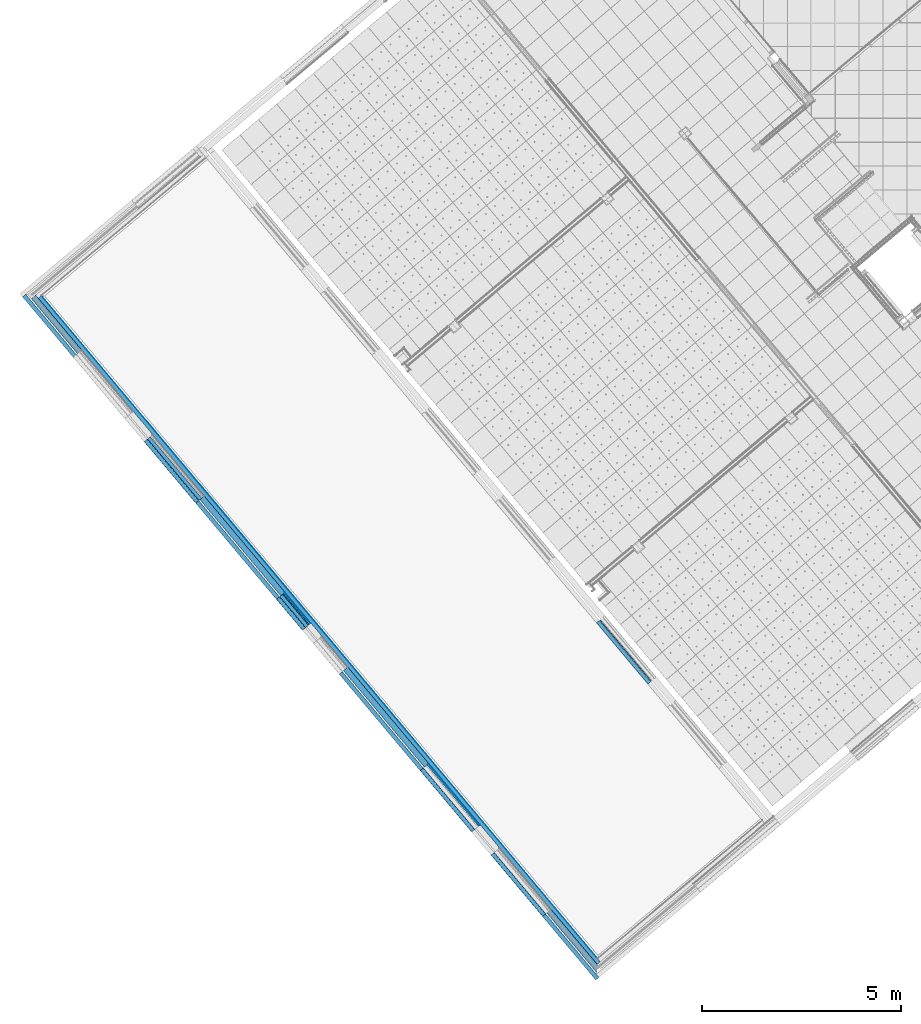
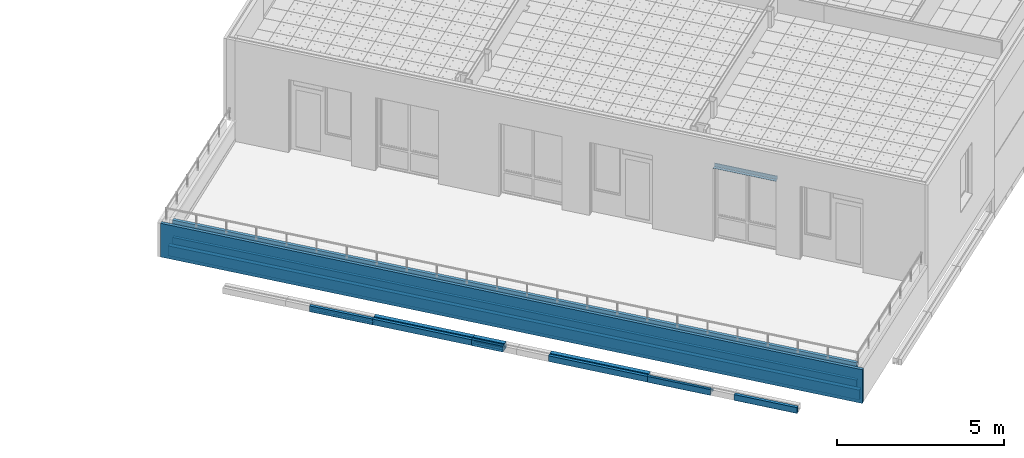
# One storey, part 48 of 321: 25 building element parts, 8 elements without a shape of their own.
"""IFC2X3 building model written with IfcOpenShell, lengths in millimetres."""

from ifc_helpers import new_model, entity, si_unit, converted_unit, derived_unit, money_unit, direction, frame, origin_with_axes, place, context, subcontext, project, spatial, faceted_brep, material, type_object, element, aggregate, save


model = new_model("IFC2X3")

# Units and contexts
model_context = context("Model", 3, precision=0.01, world=origin_with_axes(), true_north=direction((0.0, 1.0)))
plan_context = context("Plan", 3, precision=0.01, world=origin_with_axes(), true_north=direction((0.0, 1.0)))
body_context = subcontext(model_context, "Body", "Model", "MODEL_VIEW")
ifc_project = project(units=[si_unit("LENGTHUNIT", "METRE", prefix="MILLI"), si_unit("AREAUNIT", "SQUARE_METRE"), si_unit("VOLUMEUNIT", "CUBIC_METRE"), converted_unit("PLANEANGLEUNIT", "DEGREE", entity("IfcPlaneAngleMeasure", 0.0174532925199), si_unit("PLANEANGLEUNIT", "RADIAN"), dimensions=[0, 0, 0, 0, 0, 0, 0]), money_unit("EUR"), converted_unit("TIMEUNIT", "Year", entity("IfcTimeMeasure", 31556926.0), si_unit("TIMEUNIT", "SECOND"), dimensions=[0, 0, 1, 0, 0, 0, 0]), si_unit("MASSUNIT", "GRAM", prefix="KILO"), si_unit("THERMODYNAMICTEMPERATUREUNIT", "DEGREE_CELSIUS"), si_unit("LUMINOUSINTENSITYUNIT", "LUMEN"), si_unit("ENERGYUNIT", "JOULE", prefix="MEGA"), derived_unit("THERMALCONDUCTANCEUNIT", [(si_unit("POWERUNIT", "WATT"), 1), (si_unit("LENGTHUNIT", "METRE"), -1), (si_unit("THERMODYNAMICTEMPERATUREUNIT", "KELVIN"), -1)]), derived_unit("SPECIFICHEATCAPACITYUNIT", [(si_unit("ENERGYUNIT", "JOULE"), 1), (si_unit("MASSUNIT", "GRAM", prefix="KILO"), -1), (si_unit("THERMODYNAMICTEMPERATUREUNIT", "KELVIN"), -1)]), derived_unit("MASSDENSITYUNIT", [(si_unit("MASSUNIT", "GRAM", prefix="KILO"), 1), (si_unit("VOLUMEUNIT", "CUBIC_METRE"), -1)])], contexts=[model_context, plan_context])

# Site, building, storey
site_placement = place(None, origin_with_axes())
site = spatial("IfcSite", under=ifc_project, at=site_placement, Name="Fortuinstraat Woensdrecht", CompositionType="ELEMENT")
building_placement = place(site_placement, origin_with_axes())
building = spatial("IfcBuilding", under=site, at=building_placement, Name="IKC Fortuna", CompositionType="ELEMENT")
storey_placement = place(building_placement, frame((0.0, 0.0, 4000.0), z_axis=(0.0, 0.0, 1.0), x_axis=(1.0, 0.0, 0.0)))
storey = spatial("IfcBuildingStorey", under=building, at=storey_placement, Name="01 eerste verdieping", CompositionType="ELEMENT", Elevation=4000.0)

# Covering, building element parts
covering_type_1 = type_object("IfcCoveringType", Name="21 Dakrand terras 386 x 1235", PredefinedType="CLADDING")
covering_1_placement = place(storey_placement, frame((0.0, 0.0, 1300.0), z_axis=(0.0, 0.0, 1.0), x_axis=(0.642787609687, -0.766044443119, 0.0)))
covering_1 = element("IfcCovering", 1, at=covering_1_placement, inside=storey, type_object=covering_type_1, Name="21_Wandafwerking_Dakrand", PredefinedType="CLADDING")
ifc_material_1 = material(Name="Membraan - waterdicht")
building_element_part_1_placement = place(covering_1_placement, origin_with_axes())
building_element_part_1 = element("IfcBuildingElementPart", 2, at=building_element_part_1_placement, material=ifc_material_1, Name="Membraan - waterdicht", context=body_context, shape_type="Brep", body=[
    faceted_brep([(105.999998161, 100.00000295, 399.999998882), (21827.9999978, 100.00000295, 399.999998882), (21827.9999978, 105.999998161, 399.999998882), (105.999998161, 105.999998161, 399.999998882), (21827.9999978, 100.00000295, 60.0), (105.999998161, 100.00000295, 60.0), (21827.9999978, 105.999998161, 60.0), (105.999998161, 105.999998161, 60.0)], [[[0, 1, 2, 3]], [[4, 1, 0, 5]], [[6, 2, 1, 4]], [[3, 2, 6, 7]], [[5, 0, 3, 7]], [[7, 6, 4, 5]]]),
])
ifc_material_2 = material(Name="Steen - Cellenbeton")
building_element_part_2_placement = place(covering_1_placement, origin_with_axes())
building_element_part_2 = element("IfcBuildingElementPart", 3, at=building_element_part_2_placement, material=ifc_material_2, Name="Steen - Cellenbeton", context=body_context, shape_type="Brep", body=[
    faceted_brep([(100.000002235, 0.0, 399.999998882), (21927.999991, 0.0, 400.0000076), (21927.999991, 100.000002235, 400.0000076), (100.000002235, 100.000002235, 399.999998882), (100.000002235, -2.60774297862e-07, 159.999999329), (21928.0000094, -2.60774061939e-07, 159.999993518), (21928.0000094, 100.000002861, 159.999993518), (21928.0000003, 100.000002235, 59.9999995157), (100.000002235, 100.000002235, 60.0), (100.000002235, 0.0, 60.0), (21928.0000003, 0.0, 59.9999995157)], [[[0, 1, 2, 3]], [[4, 5, 1, 0]], [[5, 6, 2, 1]], [[3, 2, 6, 7, 8]], [[9, 4, 0, 3, 8]], [[9, 10, 5, 4]], [[7, 6, 5, 10]], [[8, 7, 10, 9]]]),
])
ifc_material_3 = material(Name="Steen - Baksteen Hoofd")
building_element_part_3_placement = place(covering_1_placement, origin_with_axes())
building_element_part_3 = element("IfcBuildingElementPart", 4, at=building_element_part_3_placement, material=ifc_material_3, Name="Steen - Baksteen Hoofd", context=body_context, shape_type="Brep", body=[
    faceted_brep([(21927.999991, 0.0, 1035.0), (21927.999991, 100.0, 1035.0), (100.0, 100.0, 1035.0), (100.0, 0.0, 1035.0), (21927.999991, 100.0, 399.999998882), (21927.999991, 0.0, 399.999998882), (100.0, 100.0, 400.0), (100.0, 0.0, 400.0)], [[[0, 1, 2, 3]], [[4, 1, 0, 5]], [[1, 4, 6, 2]], [[3, 2, 6, 7]], [[5, 0, 3, 7]], [[4, 5, 7, 6]]]),
])
ifc_material_4 = material(Name="ALG - ISOLATIE")
building_element_part_4_placement = place(covering_1_placement, origin_with_axes())
building_element_part_4 = element("IfcBuildingElementPart", 5, at=building_element_part_4_placement, material=ifc_material_4, Name="ALG - ISOLATIE", context=body_context, shape_type="Brep", body=[
    faceted_brep([(-2.60770989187e-07, -140.0, 159.999999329), (22068.0000042, -140.0, 159.999993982), (22068.0000042, -2.60770509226e-07, 159.999993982), (-2.60770958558e-07, -2.60773332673e-07, 159.999999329), (22068.0000038, -140.0, -200.0), (-2.60771447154e-07, -140.0, 59.9999995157), (-2.60770989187e-07, -140.0, -200.0), (22068.0000039, -2.60770509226e-07, -200.0), (22068.0000042, -2.60772285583e-07, 60.0), (-2.60771177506e-07, -2.60770830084e-07, 59.9999995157), (-2.60771177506e-07, -2.60770830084e-07, -200.0)], [[[0, 1, 2, 3]], [[4, 1, 0, 5, 6]], [[7, 8, 2, 1, 4]], [[3, 2, 8, 9]], [[5, 0, 3, 9]], [[6, 5, 9, 10]], [[10, 7, 4, 6]], [[9, 8, 7, 10]]]),
])
building_element_part_5_placement = place(covering_1_placement, origin_with_axes())
building_element_part_5 = element("IfcBuildingElementPart", 6, at=building_element_part_5_placement, material=ifc_material_3, Name="Steen - Baksteen Hoofd", context=body_context, shape_type="Brep", body=[
    faceted_brep([(-180.0, -180.0, -200.0), (-180.0, -180.0, 1035.0), (22208.0000013, -180.0, 1035.0), (22208.0000013, -180.0, -200.0), (-180.0, -280.0, -200.0), (-180.0, -280.0, 1035.0), (22208.0000013, -280.0, 1035.0), (22208.0000013, -280.0, -200.0)], [[[0, 1, 2, 3]], [[4, 5, 1, 0]], [[2, 1, 5, 6]], [[6, 7, 3, 2]], [[7, 4, 0, 3]], [[6, 5, 4, 7]]]),
])
aggregate(covering_1, [building_element_part_1, building_element_part_2, building_element_part_3, building_element_part_4, building_element_part_5])

covering_type_2 = type_object("IfcCoveringType", Name="41 Latei MW rollaag 280 x 227", PredefinedType="NOTDEFINED")
covering_2_placement = place(storey_placement, frame((12830.7827725, -15508.9328007, 237.5), z_axis=(0.0, 0.0, 1.0), x_axis=(-0.642787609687, 0.766044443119, 0.0)))
covering_2 = element("IfcCovering", 7, at=covering_2_placement, inside=storey, type_object=covering_type_2, Name="41_Afwerking_Latei + rollaag", PredefinedType="NOTDEFINED")
ifc_material_5 = material(Name="Metaal - Staal C")
building_element_part_6_placement = place(covering_2_placement, origin_with_axes())
building_element_part_6 = element("IfcBuildingElementPart", 8, at=building_element_part_6_placement, material=ifc_material_5, Name="Metaal - Staal C", context=body_context, shape_type="Brep", body=[
    faceted_brep([(2010.0, 32.0, 2.5), (0.0, 32.0, 2.5), (0.0, 32.0, 0.0), (2010.0, 32.0, 0.0), (0.0, 36.6213203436, 2.49999999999), (2010.0, 36.6213203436, 2.49999999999), (0.0, 37.1715728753, 1.17157287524), (0.0, 40.0, 0.0), (0.0, 115.609685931, 0.0), (0.0, 136.0, -4.07767729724), (0.0, 135.215535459, -8.0), (0.0, 115.215535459, -4.0), (0.0, 36.0, -4.0), (0.0, 33.1715728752, -2.82842712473), (2010.0, 33.1715728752, -2.82842712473), (2010.0, 36.0, -4.0), (2010.0, 115.215535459, -4.0), (2010.0, 135.215535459, -8.0), (2010.0, 136.0, -4.07767729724), (2010.0, 115.609685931, 0.0), (2010.0, 40.0, 0.0), (2010.0, 37.1715728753, 1.17157287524)], [[[0, 1, 2, 3]], [[4, 1, 0, 5]], [[1, 4, 6, 7, 8, 9, 10, 11, 12, 13, 2]], [[13, 14, 3, 2]], [[5, 0, 3, 14, 15, 16, 17, 18, 19, 20, 21]], [[4, 5, 21, 6]], [[6, 21, 20, 7]], [[7, 20, 19, 8]], [[8, 19, 18, 9]], [[9, 18, 17, 10]], [[10, 17, 16, 11]], [[11, 16, 15, 12]], [[12, 15, 14, 13]]]),
    faceted_brep([(2010.0, 29.9999999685, 112.580611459), (0.0, 29.9999999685, 112.580611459), (0.0, 20.8284271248, 121.828427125), (2010.0, 20.8284271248, 121.828427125), (0.0, 29.9999999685, 107.000000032), (2010.0, 29.9999999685, 107.000000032), (0.0, 18.0000000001, 119.0), (2010.0, 18.0000000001, 119.0)], [[[0, 1, 2, 3]], [[4, 1, 0, 5]], [[1, 4, 6, 2]], [[6, 7, 3, 2]], [[5, 0, 3, 7]], [[4, 5, 7, 6]]]),
])
ifc_material_6 = material(Name="Steen - Baksteen Accent Rollaag")
building_element_part_7_placement = place(covering_2_placement, origin_with_axes())
building_element_part_7 = element("IfcBuildingElementPart", 9, at=building_element_part_7_placement, material=ifc_material_6, Name="Steen - Baksteen Accent Rollaag", context=body_context, shape_type="Brep", body=[
    faceted_brep([(0.0, 51.9999999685, 12.5), (0.0, 43.5147185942, 16.0147186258), (0.0, 39.9999999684, 24.5), (0.0, 40.0, 210.0), (0.0, 140.0, 210.0), (0.0, 140.0, 0.0), (0.0, 115.609685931, 0.0), (0.0, 40.0, 0.0), (0.0, 40.0, 2.49999999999), (0.0, 129.999999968, 2.49999999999), (0.0, 129.999999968, 6.49999999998), (0.0, 128.242640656, 10.7426406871), (0.0, 123.999999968, 12.5), (2010.0, 51.9999999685, 12.5), (2010.0, 43.5147185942, 16.0147186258), (2010.0, 39.9999999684, 24.5), (2010.0, 40.0, 210.0), (2010.0, 140.0, 210.0), (2010.0, 140.0, 0.0), (2010.0, 115.609685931, 0.0), (2010.0, 40.0, 0.0), (2010.0, 40.0, 2.49999999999), (2010.0, 129.999999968, 2.49999999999), (2010.0, 129.999999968, 6.49999999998), (2010.0, 128.242640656, 10.7426406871), (2010.0, 123.999999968, 12.5)], [[[0, 1, 2, 3, 4, 5, 6, 7, 8, 9, 10, 11, 12]], [[1, 0, 13, 14]], [[15, 2, 1, 14]], [[2, 15, 16, 3]], [[3, 16, 17, 4]], [[4, 17, 18, 5]], [[5, 18, 19, 6]], [[6, 19, 20, 7]], [[21, 8, 7, 20]], [[9, 8, 21, 22]], [[10, 9, 22, 23]], [[11, 10, 23, 24]], [[12, 11, 24, 25]], [[0, 12, 25, 13]], [[22, 21, 20, 19, 18, 17, 16, 15, 14, 13, 25, 24, 23]]]),
])
aggregate(covering_2, [building_element_part_6, building_element_part_7])

covering_3_placement = place(storey_placement, frame((11050.2610804, -13386.9896774, 237.5), z_axis=(0.0, 0.0, 1.0), x_axis=(-0.642787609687, 0.766044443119, 0.0)))
covering_3 = element("IfcCovering", 10, at=covering_3_placement, inside=storey, type_object=covering_type_2, Name="41_Afwerking_Latei + rollaag", PredefinedType="NOTDEFINED")
building_element_part_8_placement = place(covering_3_placement, origin_with_axes())
building_element_part_8 = element("IfcBuildingElementPart", 11, at=building_element_part_8_placement, material=ifc_material_5, Name="Metaal - Staal C", context=body_context, shape_type="Brep", body=[
    faceted_brep([(2010.0, 32.0, 2.5), (0.0, 32.0, 2.5), (0.0, 32.0, 0.0), (2010.0, 32.0, 0.0), (0.0, 36.6213203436, 2.49999999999), (2010.0, 36.6213203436, 2.49999999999), (0.0, 37.1715728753, 1.17157287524), (0.0, 40.0, 0.0), (0.0, 115.609685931, 0.0), (0.0, 136.0, -4.07767729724), (0.0, 135.215535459, -8.0), (0.0, 115.215535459, -4.0), (0.0, 36.0, -4.0), (0.0, 33.1715728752, -2.82842712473), (2010.0, 33.1715728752, -2.82842712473), (2010.0, 36.0, -4.0), (2010.0, 115.215535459, -4.0), (2010.0, 135.215535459, -8.0), (2010.0, 136.0, -4.07767729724), (2010.0, 115.609685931, 0.0), (2010.0, 40.0, 0.0), (2010.0, 37.1715728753, 1.17157287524)], [[[0, 1, 2, 3]], [[4, 1, 0, 5]], [[1, 4, 6, 7, 8, 9, 10, 11, 12, 13, 2]], [[13, 14, 3, 2]], [[5, 0, 3, 14, 15, 16, 17, 18, 19, 20, 21]], [[4, 5, 21, 6]], [[6, 21, 20, 7]], [[7, 20, 19, 8]], [[8, 19, 18, 9]], [[9, 18, 17, 10]], [[10, 17, 16, 11]], [[11, 16, 15, 12]], [[12, 15, 14, 13]]]),
    faceted_brep([(2010.0, 29.9999999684, 112.580611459), (0.0, 29.9999999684, 112.580611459), (0.0, 20.8284271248, 121.828427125), (2010.0, 20.8284271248, 121.828427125), (0.0, 29.9999999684, 107.000000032), (2010.0, 29.9999999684, 107.000000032), (0.0, 18.0000000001, 119.0), (2010.0, 18.0000000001, 119.0)], [[[0, 1, 2, 3]], [[4, 1, 0, 5]], [[1, 4, 6, 2]], [[6, 7, 3, 2]], [[5, 0, 3, 7]], [[4, 5, 7, 6]]]),
])
building_element_part_9_placement = place(covering_3_placement, origin_with_axes())
building_element_part_9 = element("IfcBuildingElementPart", 12, at=building_element_part_9_placement, material=ifc_material_6, Name="Steen - Baksteen Accent Rollaag", context=body_context, shape_type="Brep", body=[
    faceted_brep([(0.0, 51.9999999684, 12.5), (0.0, 43.5147185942, 16.0147186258), (0.0, 39.9999999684, 24.5), (0.0, 40.0, 210.0), (0.0, 140.0, 210.0), (0.0, 140.0, 0.0), (0.0, 115.609685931, 0.0), (0.0, 40.0, 0.0), (0.0, 40.0, 2.49999999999), (0.0, 129.999999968, 2.49999999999), (0.0, 129.999999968, 6.49999999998), (0.0, 128.242640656, 10.7426406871), (0.0, 123.999999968, 12.5), (2010.0, 51.9999999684, 12.5), (2010.0, 43.5147185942, 16.0147186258), (2010.0, 39.9999999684, 24.5), (2010.0, 40.0, 210.0), (2010.0, 140.0, 210.0), (2010.0, 140.0, 0.0), (2010.0, 115.609685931, 0.0), (2010.0, 40.0, 0.0), (2010.0, 40.0, 2.49999999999), (2010.0, 129.999999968, 2.49999999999), (2010.0, 129.999999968, 6.49999999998), (2010.0, 128.242640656, 10.7426406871), (2010.0, 123.999999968, 12.5)], [[[0, 1, 2, 3, 4, 5, 6, 7, 8, 9, 10, 11, 12]], [[1, 0, 13, 14]], [[15, 2, 1, 14]], [[2, 15, 16, 3]], [[3, 16, 17, 4]], [[4, 17, 18, 5]], [[5, 18, 19, 6]], [[6, 19, 20, 7]], [[21, 8, 7, 20]], [[9, 8, 21, 22]], [[10, 9, 22, 23]], [[11, 10, 23, 24]], [[12, 11, 24, 25]], [[0, 12, 25, 13]], [[22, 21, 20, 19, 18, 17, 16, 15, 14, 13, 25, 24, 23]]]),
])
ifc_material_7 = material(Name="Hout AFW")
building_element_part_10_placement = place(covering_3_placement, origin_with_axes())
building_element_part_10 = element("IfcBuildingElementPart", 13, at=building_element_part_10_placement, material=ifc_material_7, Name="Hout AFW", context=body_context, shape_type="Brep", body=[
    faceted_brep([(0.0, -127.999998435, 53.0000013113), (2010.0, -127.999998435, 53.0000013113), (2010.0, -83.9999988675, 53.0000013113), (0.0, -83.9999988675, 53.0000013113), (0.0, -127.999998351, -1.28576260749e-07), (2010.0, -127.999998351, -1.28576260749e-07), (2010.0, -127.999998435, -17.0), (2010.0, -83.9999988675, -17.0), (0.0, -83.9999988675, -17.0), (0.0, -127.999998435, -17.0)], [[[0, 1, 2, 3]], [[4, 5, 1, 0]], [[2, 1, 5, 6, 7]], [[3, 2, 7, 8]], [[4, 0, 3, 8, 9]], [[9, 6, 5, 4]], [[8, 7, 6, 9]]]),
])
ifc_material_8 = material(Name="Isolatie - PUR gespoten")
building_element_part_11_placement = place(covering_3_placement, origin_with_axes())
building_element_part_11 = element("IfcBuildingElementPart", 14, at=building_element_part_11_placement, material=ifc_material_8, Name="Isolatie - PUR gespoten", context=body_context, shape_type="Brep", body=[
    faceted_brep([(0.0, -139.999999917, 53.0000002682), (2010.0, -139.999999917, 53.0000002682), (2010.0, -127.999998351, 53.0000013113), (0.0, -127.999998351, 53.0000013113), (0.0, -139.999999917, -1.28576260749e-07), (2010.0, -139.999999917, -1.28576260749e-07), (2010.0, -127.999998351, -1.28576260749e-07), (0.0, -127.999998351, -1.28576260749e-07)], [[[0, 1, 2, 3]], [[4, 5, 1, 0]], [[2, 1, 5, 6]], [[3, 2, 6, 7]], [[4, 0, 3, 7]], [[7, 6, 5, 4]]]),
])
aggregate(covering_3, [building_element_part_8, building_element_part_9, building_element_part_10, building_element_part_11])

covering_4_placement = place(storey_placement, frame((4122.29627621, -5130.56273267, 237.5), z_axis=(0.0, 0.0, 1.0), x_axis=(-0.642787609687, 0.766044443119, 0.0)))
covering_4 = element("IfcCovering", 15, at=covering_4_placement, inside=storey, type_object=covering_type_2, Name="41_Afwerking_Latei + rollaag", PredefinedType="NOTDEFINED")
building_element_part_12_placement = place(covering_4_placement, origin_with_axes())
building_element_part_12 = element("IfcBuildingElementPart", 16, at=building_element_part_12_placement, material=ifc_material_5, Name="Metaal - Staal C", context=body_context, shape_type="Brep", body=[
    faceted_brep([(2010.0, 32.0, 2.5), (0.0, 32.0, 2.5), (0.0, 32.0, 0.0), (2010.0, 32.0, 0.0), (0.0, 36.6213203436, 2.49999999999), (2010.0, 36.6213203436, 2.49999999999), (0.0, 37.1715728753, 1.17157287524), (0.0, 40.0, 0.0), (0.0, 115.609685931, 0.0), (0.0, 136.0, -4.07767729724), (0.0, 135.215535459, -8.0), (0.0, 115.215535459, -4.0), (0.0, 36.0, -4.0), (0.0, 33.1715728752, -2.82842712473), (2010.0, 33.1715728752, -2.82842712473), (2010.0, 36.0, -4.0), (2010.0, 115.215535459, -4.0), (2010.0, 135.215535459, -8.0), (2010.0, 136.0, -4.07767729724), (2010.0, 115.609685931, 0.0), (2010.0, 40.0, 0.0), (2010.0, 37.1715728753, 1.17157287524)], [[[0, 1, 2, 3]], [[4, 1, 0, 5]], [[1, 4, 6, 7, 8, 9, 10, 11, 12, 13, 2]], [[13, 14, 3, 2]], [[5, 0, 3, 14, 15, 16, 17, 18, 19, 20, 21]], [[4, 5, 21, 6]], [[6, 21, 20, 7]], [[7, 20, 19, 8]], [[8, 19, 18, 9]], [[9, 18, 17, 10]], [[10, 17, 16, 11]], [[11, 16, 15, 12]], [[12, 15, 14, 13]]]),
    faceted_brep([(2010.0, 29.9999999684, 112.580611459), (0.0, 29.9999999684, 112.580611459), (0.0, 20.8284271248, 121.828427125), (2010.0, 20.8284271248, 121.828427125), (0.0, 29.9999999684, 107.000000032), (2010.0, 29.9999999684, 107.000000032), (0.0, 18.0000000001, 119.0), (2010.0, 18.0000000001, 119.0)], [[[0, 1, 2, 3]], [[4, 1, 0, 5]], [[1, 4, 6, 2]], [[6, 7, 3, 2]], [[5, 0, 3, 7]], [[4, 5, 7, 6]]]),
])
building_element_part_13_placement = place(covering_4_placement, origin_with_axes())
building_element_part_13 = element("IfcBuildingElementPart", 17, at=building_element_part_13_placement, material=ifc_material_6, Name="Steen - Baksteen Accent Rollaag", context=body_context, shape_type="Brep", body=[
    faceted_brep([(0.0, 51.9999999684, 12.5), (0.0, 43.5147185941, 16.0147186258), (0.0, 39.9999999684, 24.5), (0.0, 40.0, 210.0), (0.0, 140.0, 210.0), (0.0, 140.0, 0.0), (0.0, 115.609685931, 0.0), (0.0, 40.0, 0.0), (0.0, 40.0, 2.49999999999), (0.0, 129.999999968, 2.49999999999), (0.0, 129.999999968, 6.49999999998), (0.0, 128.242640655, 10.7426406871), (0.0, 123.999999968, 12.5), (2010.0, 51.9999999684, 12.5), (2010.0, 43.5147185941, 16.0147186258), (2010.0, 39.9999999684, 24.5), (2010.0, 40.0, 210.0), (2010.0, 140.0, 210.0), (2010.0, 140.0, 0.0), (2010.0, 115.609685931, 0.0), (2010.0, 40.0, 0.0), (2010.0, 40.0, 2.49999999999), (2010.0, 129.999999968, 2.49999999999), (2010.0, 129.999999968, 6.49999999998), (2010.0, 128.242640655, 10.7426406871), (2010.0, 123.999999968, 12.5)], [[[0, 1, 2, 3, 4, 5, 6, 7, 8, 9, 10, 11, 12]], [[1, 0, 13, 14]], [[15, 2, 1, 14]], [[2, 15, 16, 3]], [[3, 16, 17, 4]], [[4, 17, 18, 5]], [[5, 18, 19, 6]], [[6, 19, 20, 7]], [[21, 8, 7, 20]], [[9, 8, 21, 22]], [[10, 9, 22, 23]], [[11, 10, 23, 24]], [[12, 11, 24, 25]], [[0, 12, 25, 13]], [[22, 21, 20, 19, 18, 17, 16, 15, 14, 13, 25, 24, 23]]]),
])
ifc_material_9 = material(Name="Metaal - Staal AFW")
building_element_part_14_placement = place(covering_4_placement, origin_with_axes())
building_element_part_14 = element("IfcBuildingElementPart", 18, at=building_element_part_14_placement, material=ifc_material_9, Name="Metaal - Staal AFW", context=body_context, shape_type="Brep", body=[
    faceted_brep([(2010.0, 29.9999999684, 4.0), (0.0, 29.9999999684, 4.0), (0.0, -58.0, 4.0), (2010.0, -58.0, 4.0), (0.0, 29.9999999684, 2.5), (2010.0, 29.9999999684, 2.5), (0.0, 32.0, 2.5), (0.0, 32.0, 0.0), (0.0, -58.0, 0.0), (2010.0, -58.0, 0.0), (2010.0, 32.0, 0.0), (2010.0, 32.0, 2.5)], [[[0, 1, 2, 3]], [[4, 1, 0, 5]], [[4, 6, 7, 8, 2, 1]], [[8, 9, 3, 2]], [[5, 0, 3, 9, 10, 11]], [[6, 4, 5, 11]], [[6, 11, 10, 7]], [[7, 10, 9, 8]]]),
])
aggregate(covering_4, [building_element_part_12, building_element_part_13, building_element_part_14])

covering_5_placement = place(storey_placement, frame((6802.07779448, -8324.20198444, 237.5), z_axis=(0.0, 0.0, 1.0), x_axis=(-0.642787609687, 0.766044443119, 0.0)))
covering_5 = element("IfcCovering", 19, at=covering_5_placement, inside=storey, type_object=covering_type_2, Name="41_Afwerking_Latei + rollaag", PredefinedType="NOTDEFINED")
building_element_part_15_placement = place(covering_5_placement, origin_with_axes())
building_element_part_15 = element("IfcBuildingElementPart", 20, at=building_element_part_15_placement, material=ifc_material_5, Name="Metaal - Staal C", context=body_context, shape_type="Brep", body=[
    faceted_brep([(1010.0, 32.0, 2.5), (0.0, 32.0, 2.5), (0.0, 32.0, 0.0), (1010.0, 32.0, 0.0), (0.0, 36.6213203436, 2.49999999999), (1010.0, 36.6213203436, 2.49999999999), (0.0, 37.1715728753, 1.17157287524), (0.0, 40.0, 0.0), (0.0, 115.609685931, 0.0), (0.0, 136.0, -4.07767729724), (0.0, 135.215535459, -8.0), (0.0, 115.215535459, -4.0), (0.0, 36.0, -4.0), (0.0, 33.1715728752, -2.82842712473), (1010.0, 33.1715728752, -2.82842712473), (1010.0, 36.0, -4.0), (1010.0, 115.215535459, -4.0), (1010.0, 135.215535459, -8.0), (1010.0, 136.0, -4.07767729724), (1010.0, 115.609685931, 0.0), (1010.0, 40.0, 0.0), (1010.0, 37.1715728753, 1.17157287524)], [[[0, 1, 2, 3]], [[4, 1, 0, 5]], [[1, 4, 6, 7, 8, 9, 10, 11, 12, 13, 2]], [[13, 14, 3, 2]], [[5, 0, 3, 14, 15, 16, 17, 18, 19, 20, 21]], [[4, 5, 21, 6]], [[6, 21, 20, 7]], [[7, 20, 19, 8]], [[8, 19, 18, 9]], [[9, 18, 17, 10]], [[10, 17, 16, 11]], [[11, 16, 15, 12]], [[12, 15, 14, 13]]]),
    faceted_brep([(1010.0, 29.9999999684, 112.580611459), (0.0, 29.9999999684, 112.580611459), (0.0, 20.8284271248, 121.828427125), (1010.0, 20.8284271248, 121.828427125), (0.0, 29.9999999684, 107.000000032), (1010.0, 29.9999999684, 107.000000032), (0.0, 18.0000000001, 119.0), (1010.0, 18.0000000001, 119.0)], [[[0, 1, 2, 3]], [[4, 1, 0, 5]], [[1, 4, 6, 2]], [[6, 7, 3, 2]], [[5, 0, 3, 7]], [[4, 5, 7, 6]]]),
])
building_element_part_16_placement = place(covering_5_placement, origin_with_axes())
building_element_part_16 = element("IfcBuildingElementPart", 21, at=building_element_part_16_placement, material=ifc_material_6, Name="Steen - Baksteen Accent Rollaag", context=body_context, shape_type="Brep", body=[
    faceted_brep([(0.0, 51.9999999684, 12.5), (0.0, 43.5147185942, 16.0147186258), (0.0, 39.9999999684, 24.5), (0.0, 40.0, 210.0), (0.0, 140.0, 210.0), (0.0, 140.0, 0.0), (0.0, 115.609685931, 0.0), (0.0, 40.0, 0.0), (0.0, 40.0, 2.49999999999), (0.0, 129.999999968, 2.49999999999), (0.0, 129.999999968, 6.49999999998), (0.0, 128.242640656, 10.7426406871), (0.0, 123.999999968, 12.5), (1010.0, 51.9999999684, 12.5), (1010.0, 43.5147185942, 16.0147186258), (1010.0, 39.9999999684, 24.5), (1010.0, 40.0, 210.0), (1010.0, 140.0, 210.0), (1010.0, 140.0, 0.0), (1010.0, 115.609685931, 0.0), (1010.0, 40.0, 0.0), (1010.0, 40.0, 2.49999999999), (1010.0, 129.999999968, 2.49999999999), (1010.0, 129.999999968, 6.49999999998), (1010.0, 128.242640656, 10.7426406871), (1010.0, 123.999999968, 12.5)], [[[0, 1, 2, 3, 4, 5, 6, 7, 8, 9, 10, 11, 12]], [[1, 0, 13, 14]], [[15, 2, 1, 14]], [[2, 15, 16, 3]], [[3, 16, 17, 4]], [[4, 17, 18, 5]], [[5, 18, 19, 6]], [[6, 19, 20, 7]], [[21, 8, 7, 20]], [[9, 8, 21, 22]], [[10, 9, 22, 23]], [[11, 10, 23, 24]], [[12, 11, 24, 25]], [[0, 12, 25, 13]], [[22, 21, 20, 19, 18, 17, 16, 15, 14, 13, 25, 24, 23]]]),
])
building_element_part_17_placement = place(covering_5_placement, origin_with_axes())
building_element_part_17 = element("IfcBuildingElementPart", 22, at=building_element_part_17_placement, material=ifc_material_9, Name="Metaal - Staal AFW", context=body_context, shape_type="Brep", body=[
    faceted_brep([(1010.0, 29.9999999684, 4.0), (0.0, 29.9999999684, 4.0), (0.0, -58.0, 4.0), (1010.0, -58.0, 4.0), (0.0, 29.9999999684, 2.5), (1010.0, 29.9999999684, 2.5), (0.0, 32.0, 2.5), (0.0, 32.0, 0.0), (0.0, -58.0, 0.0), (1010.0, -58.0, 0.0), (1010.0, 32.0, 0.0), (1010.0, 32.0, 2.5)], [[[0, 1, 2, 3]], [[4, 1, 0, 5]], [[4, 6, 7, 8, 2, 1]], [[8, 9, 3, 2]], [[5, 0, 3, 9, 10, 11]], [[6, 4, 5, 11]], [[6, 11, 10, 7]], [[7, 10, 9, 8]]]),
])
building_element_part_18_placement = place(covering_5_placement, origin_with_axes())
building_element_part_18 = element("IfcBuildingElementPart", 23, at=building_element_part_18_placement, material=ifc_material_4, Name="ALG - ISOLATIE", context=body_context, shape_type="Brep", body=[
    faceted_brep([(0.0, -140.0, 53.0), (1010.0, -140.0, 53.0), (1010.0, -140.0, 210.0), (0.0, -140.0, 210.0), (0.0, -83.9999988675, 53.0000013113), (1010.0, -83.9999988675, 53.0000013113), (1010.0, 0.0, 53.0), (1010.0, 0.0, 210.0), (0.0, 0.0, 210.0), (0.0, 0.0, 53.0)], [[[0, 1, 2, 3]], [[4, 5, 1, 0]], [[2, 1, 5, 6, 7]], [[3, 2, 7, 8]], [[4, 0, 3, 8, 9]], [[9, 6, 5, 4]], [[8, 7, 6, 9]]]),
])
building_element_part_19_placement = place(covering_5_placement, origin_with_axes())
building_element_part_19 = element("IfcBuildingElementPart", 24, at=building_element_part_19_placement, material=ifc_material_7, Name="Hout AFW", context=body_context, shape_type="Brep", body=[
    faceted_brep([(0.0, -127.999998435, 53.0000013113), (1010.0, -127.999998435, 53.0000013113), (1010.0, -83.9999988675, 53.0000013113), (0.0, -83.9999988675, 53.0000013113), (0.0, -127.999998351, -1.28576260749e-07), (1010.0, -127.999998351, -1.28576260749e-07), (1010.0, -127.999998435, -17.0), (1010.0, -83.9999988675, -17.0), (0.0, -83.9999988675, -17.0), (0.0, -127.999998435, -17.0)], [[[0, 1, 2, 3]], [[4, 5, 1, 0]], [[2, 1, 5, 6, 7]], [[3, 2, 7, 8]], [[4, 0, 3, 8, 9]], [[9, 6, 5, 4]], [[8, 7, 6, 9]]]),
])
building_element_part_20_placement = place(covering_5_placement, origin_with_axes())
building_element_part_20 = element("IfcBuildingElementPart", 25, at=building_element_part_20_placement, material=ifc_material_8, Name="Isolatie - PUR gespoten", context=body_context, shape_type="Brep", body=[
    faceted_brep([(0.0, -139.999999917, 53.0000002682), (1010.0, -139.999999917, 53.0000002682), (1010.0, -127.999998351, 53.0000013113), (0.0, -127.999998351, 53.0000013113), (0.0, -139.999999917, -1.28576260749e-07), (1010.0, -139.999999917, -1.28576260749e-07), (1010.0, -127.999998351, -1.28576260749e-07), (0.0, -127.999998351, -1.28576260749e-07)], [[[0, 1, 2, 3]], [[4, 5, 1, 0]], [[2, 1, 5, 6]], [[3, 2, 6, 7]], [[4, 0, 3, 7]], [[7, 6, 5, 4]]]),
])
aggregate(covering_5, [building_element_part_15, building_element_part_16, building_element_part_17, building_element_part_18, building_element_part_19, building_element_part_20])

covering_type_3 = type_object("IfcCoveringType", Name="41 Rollaag 280 x 210", PredefinedType="NOTDEFINED")
covering_6_placement = place(storey_placement, frame((9758.25798492, -11847.2403468, 237.5), z_axis=(0.0, 0.0, 1.0), x_axis=(-0.642787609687, 0.766044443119, 0.0)))
covering_6 = element("IfcCovering", 26, at=covering_6_placement, inside=storey, type_object=covering_type_3, Name="41_Afwerking_Rollaag", PredefinedType="NOTDEFINED")
building_element_part_21_placement = place(covering_6_placement, origin_with_axes())
building_element_part_21 = element("IfcBuildingElementPart", 27, at=building_element_part_21_placement, material=ifc_material_6, Name="Steen - Baksteen Accent Rollaag", context=body_context, shape_type="Brep", body=[
    faceted_brep([(0.0, 51.9999999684, 12.5), (0.0, 43.5147185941, 16.0147186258), (0.0, 39.9999999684, 24.5), (0.0, 40.0, 210.0), (0.0, 140.0, 210.0), (0.0, 140.0, 0.0), (0.0, 40.0, 0.0), (0.0, 40.0, 2.49999999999), (0.0, 129.999999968, 2.49999999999), (0.0, 129.999999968, 6.49999999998), (0.0, 128.242640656, 10.7426406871), (0.0, 123.999999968, 12.5), (137.999958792, 51.9999999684, 12.5), (137.999958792, 43.5147185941, 16.0147186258), (137.999958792, 39.9999999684, 24.5), (137.999958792, 40.0, 2.49999999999), (3158.99995876, 40.0, 0.0), (3158.99995876, 40.0, 2.49999999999), (3020.99995879, 40.0, 2.49999999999), (3020.99995879, 39.9999999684, 24.5), (3158.99995876, 39.9999999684, 24.5), (3158.99995876, 40.0, 210.0), (3158.99995876, 140.0, 210.0), (3158.99995876, 140.0, 0.0), (137.999958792, 129.999999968, 2.49999999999), (137.999958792, 129.999999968, 6.49999999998), (137.999958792, 128.242640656, 10.7426406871), (137.999958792, 123.999999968, 12.5), (3158.99995876, 129.999999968, 2.49999999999), (3158.99995876, 43.5147185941, 16.0147186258), (3158.99995876, 51.9999999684, 12.5), (3158.99995876, 123.999999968, 12.5), (3158.99995876, 128.242640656, 10.7426406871), (3158.99995876, 129.999999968, 6.49999999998), (3020.99995879, 129.999999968, 2.49999999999), (3020.99995879, 129.999999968, 6.49999999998), (3020.99995879, 128.242640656, 10.7426406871), (3020.99995879, 123.999999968, 12.5), (3020.99995879, 51.9999999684, 12.5), (3020.99995879, 43.5147185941, 16.0147186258)], [[[0, 1, 2, 3, 4, 5, 6, 7, 8, 9, 10, 11]], [[1, 0, 12, 13]], [[14, 2, 1, 13]], [[15, 7, 6, 16, 17, 18, 19, 20, 21, 3, 2, 14]], [[3, 21, 22, 4]], [[4, 22, 23, 5]], [[5, 23, 16, 6]], [[8, 7, 15, 24]], [[9, 8, 24, 25]], [[10, 9, 25, 26]], [[11, 10, 26, 27]], [[0, 11, 27, 12]], [[15, 14, 13, 12, 27, 26, 25, 24]], [[28, 17, 16, 23, 22, 21, 20, 29, 30, 31, 32, 33]], [[18, 17, 28, 34]], [[19, 18, 34, 35, 36, 37, 38, 39]], [[20, 19, 39, 29]], [[30, 29, 39, 38]], [[31, 30, 38, 37]], [[32, 31, 37, 36]], [[33, 32, 36, 35]], [[28, 33, 35, 34]]]),
])
building_element_part_22_placement = place(covering_6_placement, origin_with_axes())
building_element_part_22 = element("IfcBuildingElementPart", 28, at=building_element_part_22_placement, material=ifc_material_4, Name="ALG - ISOLATIE", context=body_context, shape_type="Brep", body=[
    faceted_brep([(0.0, 0.0, 0.0), (3158.99995876, 0.0, 0.0), (3158.99995876, -140.0, 0.0), (0.0, -140.0, 0.0), (0.0, 0.0, 210.0), (3158.99995876, 0.0, 210.0), (3158.99995876, -140.0, 210.0), (0.0, -140.0, 210.0)], [[[0, 1, 2, 3]], [[4, 5, 1, 0]], [[2, 1, 5, 6]], [[3, 2, 6, 7]], [[4, 0, 3, 7]], [[7, 6, 5, 4]]]),
])
aggregate(covering_6, [building_element_part_21, building_element_part_22])

covering_7_placement = place(storey_placement, frame((6152.8623087, -7550.49709689, 237.5), z_axis=(0.0, 0.0, 1.0), x_axis=(-0.642787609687, 0.766044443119, 0.0)))
covering_7 = element("IfcCovering", 29, at=covering_7_placement, inside=storey, type_object=covering_type_3, Name="41_Afwerking_Rollaag", PredefinedType="NOTDEFINED")
building_element_part_23_placement = place(covering_7_placement, origin_with_axes())
building_element_part_23 = element("IfcBuildingElementPart", 30, at=building_element_part_23_placement, material=ifc_material_6, Name="Steen - Baksteen Accent Rollaag", context=body_context, shape_type="Brep", body=[
    faceted_brep([(0.0, 51.9999999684, 12.5), (0.0, 43.5147185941, 16.0147186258), (0.0, 39.9999999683, 24.5), (0.0, 40.0, 210.0), (0.0, 140.0, 210.0), (0.0, 140.0, 0.0), (0.0, 40.0, 0.0), (0.0, 40.0, 2.49999999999), (0.0, 129.999999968, 2.49999999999), (0.0, 129.999999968, 6.49999999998), (0.0, 128.242640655, 10.7426406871), (0.0, 123.999999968, 12.5), (137.721162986, 51.9999999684, 12.5), (137.721162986, 43.5147185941, 16.0147186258), (137.721162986, 39.9999999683, 24.5), (137.721162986, 40.0, 2.49999999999), (3158.99995876, 40.0, 0.0), (3158.99995876, 40.0, 2.49999999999), (3021.00000003, 40.0, 2.49999999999), (3021.00000003, 39.9999999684, 24.5), (3158.99995876, 39.9999999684, 24.5), (3158.99995876, 40.0, 210.0), (3158.99995876, 140.0, 210.0), (3158.99995876, 140.0, 0.0), (137.721162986, 129.999999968, 2.49999999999), (137.721162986, 129.999999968, 6.49999999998), (137.721162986, 128.242640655, 10.7426406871), (137.721162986, 123.999999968, 12.5), (3158.99995876, 129.999999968, 2.49999999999), (3158.99995876, 43.5147185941, 16.0147186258), (3158.99995876, 51.9999999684, 12.5), (3158.99995876, 123.999999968, 12.5), (3158.99995876, 128.242640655, 10.7426406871), (3158.99995876, 129.999999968, 6.49999999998), (3021.00000003, 129.999999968, 2.49999999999), (3021.00000003, 129.999999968, 6.49999999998), (3021.00000003, 128.242640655, 10.7426406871), (3021.00000003, 123.999999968, 12.5), (3021.00000003, 51.9999999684, 12.5), (3021.00000003, 43.5147185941, 16.0147186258)], [[[0, 1, 2, 3, 4, 5, 6, 7, 8, 9, 10, 11]], [[1, 0, 12, 13]], [[14, 2, 1, 13]], [[15, 7, 6, 16, 17, 18, 19, 20, 21, 3, 2, 14]], [[3, 21, 22, 4]], [[4, 22, 23, 5]], [[5, 23, 16, 6]], [[8, 7, 15, 24]], [[9, 8, 24, 25]], [[10, 9, 25, 26]], [[11, 10, 26, 27]], [[0, 11, 27, 12]], [[15, 14, 13, 12, 27, 26, 25, 24]], [[28, 17, 16, 23, 22, 21, 20, 29, 30, 31, 32, 33]], [[18, 17, 28, 34]], [[19, 18, 34, 35, 36, 37, 38, 39]], [[20, 19, 39, 29]], [[30, 29, 39, 38]], [[31, 30, 38, 37]], [[32, 31, 37, 36]], [[33, 32, 36, 35]], [[28, 33, 35, 34]]]),
])
building_element_part_24_placement = place(covering_7_placement, origin_with_axes())
building_element_part_24 = element("IfcBuildingElementPart", 31, at=building_element_part_24_placement, material=ifc_material_4, Name="ALG - ISOLATIE", context=body_context, shape_type="Brep", body=[
    faceted_brep([(0.0, 0.0, 0.0), (3158.99995876, 0.0, 0.0), (3158.99995876, -140.0, 0.0), (0.0, -140.0, 0.0), (0.0, 0.0, 210.0), (3158.99995876, 0.0, 210.0), (3158.99995876, -140.0, 210.0), (0.0, -140.0, 210.0)], [[[0, 1, 2, 3]], [[4, 5, 1, 0]], [[2, 1, 5, 6]], [[3, 2, 6, 7]], [[4, 0, 3, 7]], [[7, 6, 5, 4]]]),
])
aggregate(covering_7, [building_element_part_23, building_element_part_24])

# Covering, building element part
covering_type_4 = type_object("IfcCoveringType", Name="41 Latei MW zw 269 x 142", PredefinedType="NOTDEFINED")
covering_8_placement = place(storey_placement, frame((14182.1646526, -8135.14189353, 4272.5), z_axis=(0.0, 0.0, 1.0), x_axis=(0.642787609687, -0.766044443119, 0.0)))
covering_8 = element("IfcCovering", 32, at=covering_8_placement, inside=storey, type_object=covering_type_4, Name="41_Afwerking_MW latei", PredefinedType="NOTDEFINED")
building_element_part_25_placement = place(covering_8_placement, origin_with_axes())
building_element_part_25 = element("IfcBuildingElementPart", 33, at=building_element_part_25_placement, material=ifc_material_9, Name="Metaal - Staal AFW", context=body_context, shape_type="Brep", body=[
    faceted_brep([(2010.0, -43.3863648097, -3.9999998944), (2010.0, -43.3863648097, 0.0), (2010.0, -115.609685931, 0.0), (2010.0, -136.000000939, -4.07767792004), (2010.0, -135.215535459, -8.0), (2010.0, -115.215535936, -3.99999886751), (0.0, -43.3863648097, 0.0), (0.0, -43.3863648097, -3.9999998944), (0.0, -115.609685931, 0.0), (0.0, -136.000000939, -4.07767792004), (0.0, -135.215535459, -8.0), (0.0, -115.215535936, -3.99999886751)], [[[0, 1, 2, 3, 4, 5]], [[6, 1, 0, 7]], [[1, 6, 8, 2]], [[9, 3, 2, 8]], [[10, 4, 3, 9]], [[11, 5, 4, 10]], [[7, 0, 5, 11]], [[6, 7, 11, 10, 9, 8]]]),
    faceted_brep([(0.0, -33.3863648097, 109.166095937), (2010.0, -33.3863648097, 109.166095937), (2010.0, -20.8284271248, 121.828427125), (0.0, -20.8284271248, 121.828427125), (2010.0, -33.3863648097, -2.91739685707), (0.0, -33.3863648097, -2.91739685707), (2010.0, -33.1715728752, -2.82842712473), (2010.0, -32.0, 0.0), (2010.0, -32.0, 105.0), (2010.0, -18.0000000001, 119.0), (0.0, -18.0000000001, 119.0), (0.0, -32.0, 105.0), (0.0, -32.0, 0.0), (0.0, -33.1715728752, -2.82842712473)], [[[0, 1, 2, 3]], [[4, 1, 0, 5]], [[1, 4, 6, 7, 8, 9, 2]], [[3, 2, 9, 10]], [[5, 0, 3, 10, 11, 12, 13]], [[4, 5, 13, 6]], [[12, 7, 6, 13]], [[11, 8, 7, 12]], [[10, 9, 8, 11]]]),
])
aggregate(covering_8, [building_element_part_25])

save(model, "model.ifc")
